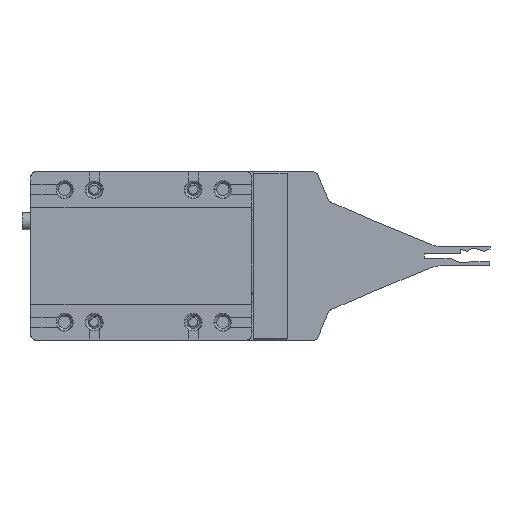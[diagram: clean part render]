
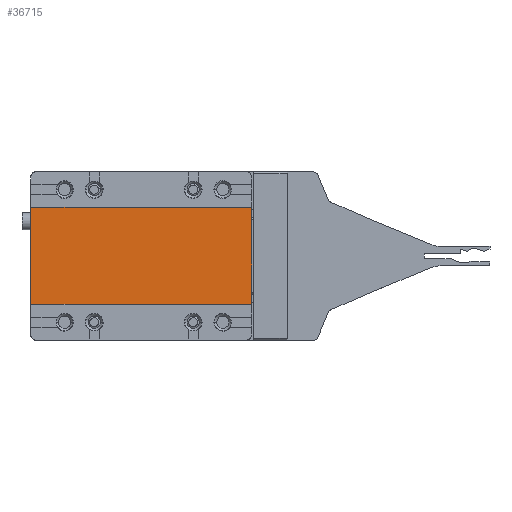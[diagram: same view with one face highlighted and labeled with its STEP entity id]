
A CAD part, top view. The second image highlights one B-rep face of the part: STEP entity #36715.
In plain terms, the highlighted planar face has unit normal (0, 0, 1).
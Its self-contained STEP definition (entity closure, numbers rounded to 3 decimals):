
#793 = CARTESIAN_POINT ( 'NONE',  ( 25.039, 21.772, 35.356 ) ) ;
#1701 = PLANE ( 'NONE',  #10309 ) ;
#4625 = VECTOR ( 'NONE', #23618, 1000. ) ;
#4905 = VECTOR ( 'NONE', #37310, 1000. ) ;
#7847 = CARTESIAN_POINT ( 'NONE',  ( 2.739, 21.772, 35.356 ) ) ;
#8524 = EDGE_CURVE ( 'NONE', #12833, #8545, #33214, .T. ) ;
#8545 = VERTEX_POINT ( 'NONE', #9023 ) ;
#9023 = CARTESIAN_POINT ( 'NONE',  ( 25.039, 31.572, 35.356 ) ) ;
#10061 = LINE ( 'NONE', #34265, #4905 ) ;
#10309 = AXIS2_PLACEMENT_3D ( 'NONE', #35768, #14739, #30146 ) ;
#12685 = CARTESIAN_POINT ( 'NONE',  ( 2.839, 31.572, 35.356 ) ) ;
#12833 = VERTEX_POINT ( 'NONE', #793 ) ;
#13365 = LINE ( 'NONE', #22558, #36416 ) ;
#13482 = VERTEX_POINT ( 'NONE', #7847 ) ;
#13519 = EDGE_LOOP ( 'NONE', ( #34709, #39046, #20306, #38638 ) ) ;
#14426 = CARTESIAN_POINT ( 'NONE',  ( 25.039, 31.572, 35.356 ) ) ;
#14739 = DIRECTION ( 'NONE',  ( 0., 0., 1. ) ) ;
#20306 = ORIENTED_EDGE ( 'NONE', *, *, #8524, .T. ) ;
#21664 = VERTEX_POINT ( 'NONE', #38469 ) ;
#22033 = LINE ( 'NONE', #12685, #22693 ) ;
#22558 = CARTESIAN_POINT ( 'NONE',  ( 2.839, 21.772, 35.356 ) ) ;
#22693 = VECTOR ( 'NONE', #28879, 1000. ) ;
#23618 = DIRECTION ( 'NONE',  ( 0., 1., 0. ) ) ;
#25272 = EDGE_CURVE ( 'NONE', #13482, #12833, #13365, .T. ) ;
#28879 = DIRECTION ( 'NONE',  ( -1., 0., 0. ) ) ;
#30146 = DIRECTION ( 'NONE',  ( 1., 0., 0. ) ) ;
#31743 = DIRECTION ( 'NONE',  ( 1., 0., 0. ) ) ;
#32323 = FACE_OUTER_BOUND ( 'NONE', #13519, .T. ) ;
#32324 = EDGE_CURVE ( 'NONE', #8545, #21664, #22033, .T. ) ;
#33214 = LINE ( 'NONE', #14426, #4625 ) ;
#34265 = CARTESIAN_POINT ( 'NONE',  ( 2.739, 31.572, 35.356 ) ) ;
#34709 = ORIENTED_EDGE ( 'NONE', *, *, #38043, .T. ) ;
#35768 = CARTESIAN_POINT ( 'NONE',  ( 13.839, 26.672, 35.356 ) ) ;
#36416 = VECTOR ( 'NONE', #31743, 1000. ) ;
#36715 = ADVANCED_FACE ( 'NONE', ( #32323 ), #1701, .T. ) ;
#37310 = DIRECTION ( 'NONE',  ( 0., -1., 0. ) ) ;
#38043 = EDGE_CURVE ( 'NONE', #21664, #13482, #10061, .T. ) ;
#38469 = CARTESIAN_POINT ( 'NONE',  ( 2.739, 31.572, 35.356 ) ) ;
#38638 = ORIENTED_EDGE ( 'NONE', *, *, #32324, .T. ) ;
#39046 = ORIENTED_EDGE ( 'NONE', *, *, #25272, .T. ) ;
